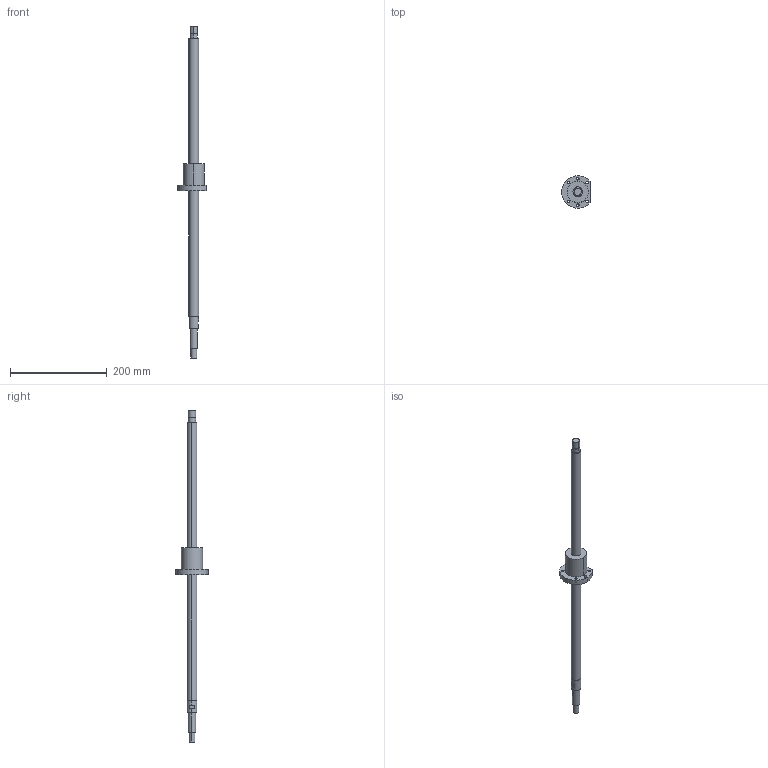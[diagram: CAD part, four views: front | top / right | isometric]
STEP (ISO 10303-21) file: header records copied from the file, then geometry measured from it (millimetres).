
FILE_DESCRIPTION((''),'2;1');
FILE_NAME('PRT0001','2008-03-31T',('mahdi'),(''),'PRO/ENGINEER BY PARAMETRIC TECHNOLOGY CORPORATION, 2005070','PRO/ENGINEER BY PARAMETRIC TECHNOLOGY CORPORATION, 2005070','');
FILE_SCHEMA(('CONFIG_CONTROL_DESIGN'));
Length unit declared in the file: millimetre
Products named in the file (1): PRT0001
Bounding box: 59.38 x 66.95 x 686 mm (x, y, z)
Volume: 286132.1 mm3; surface area: 54461.4 mm2
Topology: 1 solids, 1 shells, 67 faces, 150 edges, 100 vertices
Faces by surface type: cylinder 43, plane 24
Entity records: 1980 total; most frequent: DIRECTION 378, CARTESIAN_POINT 317, ORIENTED_EDGE 300, AXIS2_PLACEMENT_3D 161, EDGE_CURVE 150, VERTEX_POINT 100, EDGE_LOOP 94, CIRCLE 94
